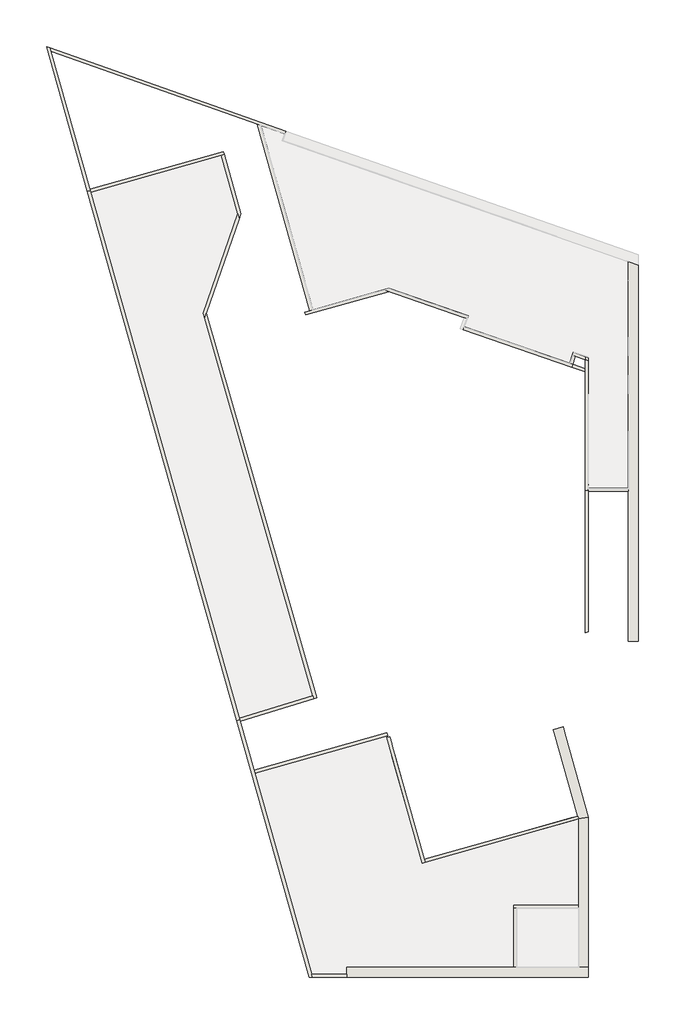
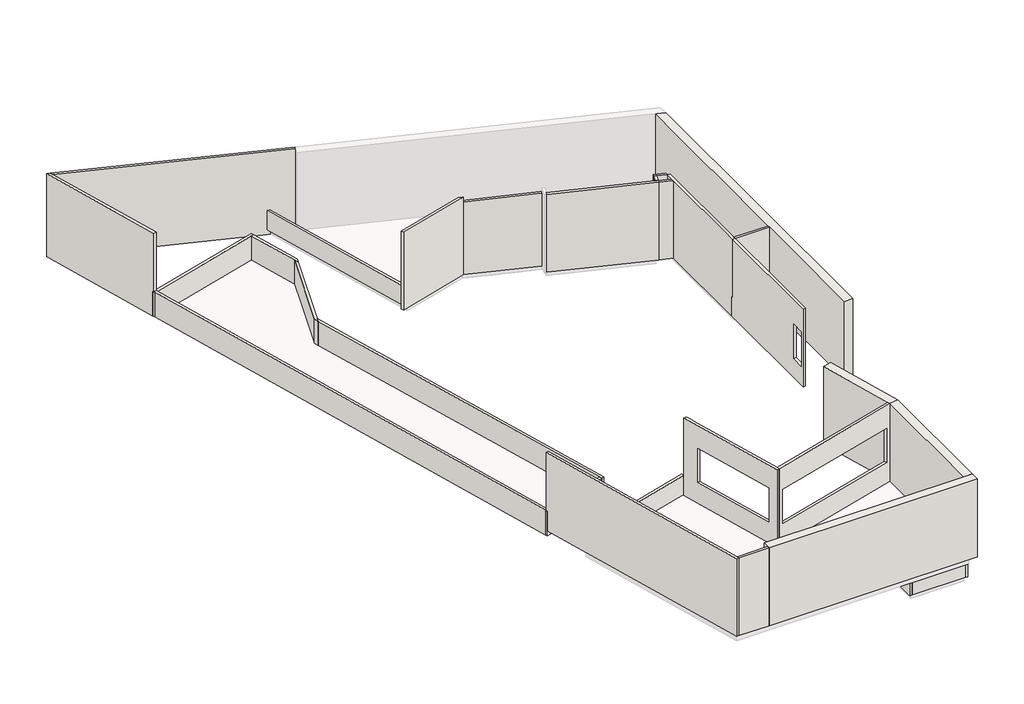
# Not in any storey, part 1 of 2: 31 walls.
"""IFC4 building model written with IfcOpenShell, lengths in millimetres."""

import ifcopenshell
import ifcopenshell.guid

model = None  # the IFC model being written
_history = None  # IfcOwnerHistory: only IFC2X3 demands one
_inside = {}  # id of a spatial element -> (the spatial element, [elements in it])
_under = {}  # id of a project, library or spatial element -> (it, [spatial elements below it])
_declared = {}  # id of a project -> (the project, [libraries it declares])
_typed = {}  # id of a type object -> (the type object, [elements of that type])
_made_of = {}  # id of a material, layer set ... -> (it, [elements and type objects made of it])


def new_model(schema):
    """Start an empty IFC model of exactly this schema.

    Asked for "IFC4X3", IfcOpenShell would pick the latest addendum, in which some entities
    have other attributes; the version numbers below select the first issue.
    IFC2X3 requires an IfcOwnerHistory on every rooted entity: one is made here for all.
    """
    global model, _history
    if schema == "IFC4X3":
        model = ifcopenshell.file(schema_version=(4, 3, 0, 0))
    else:
        model = ifcopenshell.file(schema=schema)
    _inside.clear()
    _under.clear()
    _declared.clear()
    _typed.clear()
    _made_of.clear()
    _history = None
    if model.schema == "IFC2X3":
        org = make("IfcOrganization", Name="unknown")
        user = make(
            "IfcPersonAndOrganization",
            ThePerson=make("IfcPerson", FamilyName="unknown"),
            TheOrganization=org,
        )
        app = make(
            "IfcApplication",
            ApplicationDeveloper=org,
            Version="unknown",
            ApplicationFullName="unknown",
            ApplicationIdentifier="unknown",
        )
        _history = make(
            "IfcOwnerHistory",
            OwningUser=user,
            OwningApplication=app,
            ChangeAction="ADDED",
            CreationDate=0,
        )
    return model


def make(cls, **values):
    """One entity of the class cls with the attributes given. An attribute that is None is left unset."""
    return model.create_entity(
        cls, **{name: value for name, value in values.items() if value is not None}
    )


def rooted(cls, **values):
    """An entity with a GlobalId (a new one), such as an element, a storey or a relation."""
    return make(cls, GlobalId=ifcopenshell.guid.new(), OwnerHistory=_history, **values)


def si_unit(unit_type, name, prefix=None):
    """IfcSIUnit, for example si_unit("LENGTHUNIT", "METRE", prefix="MILLI")."""
    return make("IfcSIUnit", UnitType=unit_type, Prefix=prefix, Name=name)


def assignment(units):
    """IfcUnitAssignment: the units of a project."""
    return None if units is None else make("IfcUnitAssignment", Units=units)


def point(xyz):
    """IfcCartesianPoint."""
    return None if xyz is None else make("IfcCartesianPoint", Coordinates=xyz)


def direction(xyz):
    """IfcDirection."""
    return None if xyz is None else make("IfcDirection", DirectionRatios=xyz)


def frame(location, z_axis=None, x_axis=None):
    """IfcAxis2Placement3D, a coordinate frame: its origin and axes. An axis left out is left unset."""
    return make(
        "IfcAxis2Placement3D",
        Location=point(location),
        Axis=direction(z_axis),
        RefDirection=direction(x_axis),
    )


def origin():
    """The frame at (0, 0, 0) with its axes left unset."""
    return frame((0.0, 0.0, 0.0))


def place(relative_to, where):
    """IfcLocalPlacement: puts the frame where relative to a parent placement (None: the world)."""
    return make(
        "IfcLocalPlacement", PlacementRelTo=relative_to, RelativePlacement=where
    )


def context(
    kind, dimensions, precision=None, world=None, true_north=None, identifier=None
):
    """IfcGeometricRepresentationContext, for example the 3D "Model" context."""
    return make(
        "IfcGeometricRepresentationContext",
        ContextIdentifier=identifier,
        ContextType=kind,
        CoordinateSpaceDimension=dimensions,
        Precision=precision,
        WorldCoordinateSystem=world,
        TrueNorth=true_north,
    )


def project(units=None, contexts=None):
    """IfcProject with its units and contexts."""
    return rooted(
        "IfcProject",
        Name="project",
        RepresentationContexts=contexts,
        UnitsInContext=assignment(units),
    )


def spatial(cls, under=None, at=None, **own):
    """A site, building, storey or space (cls), placed at a placement, below another one or the project."""
    s = rooted(cls, ObjectPlacement=at, **own)
    if under is not None:
        _under.setdefault(under.id(), (under, []))[1].append(s)
    return s


def polyline(points):
    """IfcPolyline through the points."""
    return make("IfcPolyline", Points=[point(p) for p in points])


def outline(outer, holes=None, kind="AREA"):
    """IfcArbitraryClosedProfileDef: a profile drawn as a closed curve; with holes, ...WithVoids."""
    if holes is None:
        return make("IfcArbitraryClosedProfileDef", ProfileType=kind, OuterCurve=outer)
    return make(
        "IfcArbitraryProfileDefWithVoids",
        ProfileType=kind,
        OuterCurve=outer,
        InnerCurves=holes,
    )


def extrude(swept, where, along, depth):
    """IfcExtrudedAreaSolid: the profile swept, set in the frame where, extruded along a direction by depth."""
    return make(
        "IfcExtrudedAreaSolid",
        SweptArea=swept,
        Position=where,
        ExtrudedDirection=direction(along),
        Depth=depth,
    )


def faces_of(points, faces, orient=None, outer=None):
    """IfcFace entities. A face is a list of loops; a loop is a list of indices into points, from 0.

    orient and outer hold one flag for each loop. By default every Orientation is true, the
    first loop of a face is its IfcFaceOuterBound and the others are IfcFaceBound.
    """
    made = []
    for i, loops in enumerate(faces):
        bounds = []
        for j, loop in enumerate(loops):
            is_outer = j == 0 if outer is None else outer[i][j]
            bounds.append(
                make(
                    "IfcFaceOuterBound" if is_outer else "IfcFaceBound",
                    Bound=make("IfcPolyLoop", Polygon=[points[k] for k in loop]),
                    Orientation=True if orient is None else orient[i][j],
                )
            )
        made.append(make("IfcFace", Bounds=bounds))
    return made


def faceted_brep(points, faces, orient=None, outer=None, voids=None):
    """IfcFacetedBrep: a solid bounded by flat faces; with voids (closed shells), ...WithVoids."""
    shared = [point(p) for p in points]
    hull = make("IfcClosedShell", CfsFaces=faces_of(shared, faces, orient, outer))
    if voids is None:
        return make("IfcFacetedBrep", Outer=hull)
    return make(
        "IfcFacetedBrepWithVoids",
        Outer=hull,
        Voids=[
            make(cls, CfsFaces=faces_of(shared, fs, o, b)) for cls, fs, o, b in voids
        ],
    )


def shape(context_of_items, identifier, shape_type, items):
    """IfcShapeRepresentation: the items that make up one representation, for example the "Body"."""
    return make(
        "IfcShapeRepresentation",
        ContextOfItems=context_of_items,
        RepresentationIdentifier=identifier,
        RepresentationType=shape_type,
        Items=items,
    )


def made_of(thing, what):
    """Note that an element or type object is made of a material, layer set ...; save() writes the relation."""
    if what is not None:
        _made_of.setdefault(what.id(), (what, []))[1].append(thing)
    return thing


def element(
    cls,
    number,
    at=None,
    inside=None,
    cuts=None,
    type_object=None,
    material=None,
    context=None,
    identifier="Body",
    shape_type=None,
    held_by="IfcProductDefinitionShape",
    body=None,
    shapes=None,
    **own,
):
    """One element of the class cls, such as IfcWall. Its Tag is "e" and its number.

    at: its placement. inside: the storey or other place that contains it. cuts: it is an
    opening in that element (IfcRelVoidsElement). A single representation is given by context,
    identifier, shape_type and body (its items); several are given by shapes. held_by: the class
    of the entity that holds the representations. save() writes the other relations.
    """
    e = rooted(cls, Tag="e%d" % number, ObjectPlacement=at, **own)
    if body is not None:
        shapes = [shape(context, identifier, shape_type, body)]
    if shapes is not None:
        e.Representation = make(held_by, Representations=shapes)
    if inside is not None:
        _inside.setdefault(inside.id(), (inside, []))[1].append(e)
    if cuts is not None:
        rooted(
            "IfcRelVoidsElement", RelatingBuildingElement=cuts, RelatedOpeningElement=e
        )
    if type_object is not None:
        _typed.setdefault(type_object.id(), (type_object, []))[1].append(e)
    return made_of(e, material)


def aggregate(whole, parts):
    """IfcRelAggregates: a whole, such as a stair, and the parts it consists of."""
    return rooted("IfcRelAggregates", RelatingObject=whole, RelatedObjects=parts)


def save(model, path):
    """Write the relations noted so far, then the file.

    IfcRelAggregates (storeys below a building ...), IfcRelContainedInSpatialStructure (elements
    in a storey), IfcRelDefinesByType, IfcRelAssociatesMaterial and IfcRelDeclares: one each for
    every whole, place, type object, material and project.
    """
    for whole, parts in _under.values():
        aggregate(whole, parts)
    for where, things in _inside.values():
        rooted(
            "IfcRelContainedInSpatialStructure",
            RelatedElements=things,
            RelatingStructure=where,
        )
    for kind, things in _typed.values():
        rooted("IfcRelDefinesByType", RelatedObjects=things, RelatingType=kind)
    for what, things in _made_of.values():
        rooted("IfcRelAssociatesMaterial", RelatedObjects=things, RelatingMaterial=what)
    for by, libraries in _declared.values():
        rooted("IfcRelDeclares", RelatingContext=by, RelatedDefinitions=libraries)
    model.write(path)


model = new_model("IFC4")

# Units and contexts
model_context = context("Model", 3, world=origin())
ifc_project = project(units=[si_unit("LENGTHUNIT", "METRE", prefix="MILLI")], contexts=[model_context])

# Site, building
site = spatial("IfcSite", under=ifc_project)
building = spatial("IfcBuilding", under=site)

# Walls
placement = place(None, origin())
element("IfcWall", 1, ObjectType="Parede Piscina Básica .15", at=placement, inside=building, context=model_context, shape_type="Brep", body=[
    faceted_brep([(-100106.9166518, 39277.9576877, 31150.0), (-99962.5568362, 39318.7037752, 31150.0), (-93418.2451963, 41165.8597406, 31150.0), (-93273.8853808, 41206.6058281, 31150.0), (-93273.8853808, 41206.6058281, 32650.0), (-93418.2451963, 41165.8597406, 32650.0), (-99962.5568362, 39318.7037752, 32650.0), (-100106.9166518, 39277.9576877, 32650.0), (-100147.6627393, 39422.3175033, 31150.0), (-100147.6627393, 39422.3175033, 32650.0), (-100003.3029237, 39463.0635908, 32650.0), (-93314.6314682, 41350.9656436, 32650.0), (-93314.6314682, 41350.9656436, 31150.0), (-100003.3029237, 39463.0635908, 31150.0), (-100127.2896955, 39350.1375955, 32650.0)], [[[0, 1, 2, 3, 4, 5, 6, 7]], [[8, 9, 10, 11, 12, 13]], [[3, 2, 1, 0, 8, 13, 12]], [[7, 6, 5, 4, 11, 10, 9, 14]], [[4, 3, 12, 11]], [[0, 7, 14, 9, 8]]]),
])
element("IfcWall", 2, ObjectType="Parede Piscina Básica .15", at=placement, inside=building, context=model_context, shape_type="Brep", body=[
    faceted_brep([(-93418.2451963, 41165.8597406, 31150.0), (-92591.6151058, 38237.1818027, 31150.0), (-92520.3427671, 37984.6701556, 31150.0), (-92520.3427671, 37984.6701556, 32650.0), (-92591.6151058, 38237.1818027, 32650.0), (-93418.2451963, 41165.8597406, 32650.0), (-93273.8853808, 41206.6058281, 31150.0), (-93273.8853808, 41206.6058281, 32650.0), (-92434.4594649, 38232.593403, 32650.0), (-92434.4594649, 38232.593403, 31150.0)], [[[0, 1, 2, 3, 4, 5]], [[6, 7, 8, 9]], [[2, 1, 0, 6, 9]], [[5, 4, 3, 8, 7]], [[0, 5, 7, 6]], [[3, 2, 9, 8]]]),
])
element("IfcWall", 3, ObjectType="Parede Piscina Básica .15", at=placement, inside=building, context=model_context, shape_type="Brep", body=[
    faceted_brep([(-92591.6151058, 38237.1818027, 31150.0), (-94323.2305019, 33238.4486268, 31150.0), (-94323.2305019, 33238.4486268, 32650.0), (-92591.6151058, 38237.1818027, 32650.0), (-92520.3427671, 37984.6701556, 31150.0), (-92520.3427671, 37984.6701556, 32650.0), (-94165.9627146, 33234.1839654, 32650.0), (-94251.3376166, 32987.7283401, 32650.0), (-94251.3376166, 32987.7283401, 31150.0), (-94165.9627146, 33234.1839654, 31150.0)], [[[0, 1, 2, 3]], [[4, 5, 6, 7, 8, 9]], [[1, 0, 4, 9, 8]], [[3, 2, 7, 6, 5]], [[0, 3, 5, 4]], [[2, 1, 8, 7]]]),
])
element("IfcWall", 4, ObjectType="Parede Piscina Básica .15", at=placement, inside=building, context=model_context, shape_type="Brep", body=[
    faceted_brep([(-94251.3376166, 32987.7283401, 31150.0), (-88820.0735017, 14046.6594176, 31150.0), (-88778.7230717, 13902.4533306, 31150.0), (-88778.7230717, 13902.4533306, 32650.0), (-88820.0735017, 14046.6594176, 32650.0), (-94251.3376166, 32987.7283401, 32650.0), (-94165.9627146, 33234.1839654, 31150.0), (-94165.9627146, 33234.1839654, 32650.0), (-88635.1655975, 13946.0022135, 32650.0), (-88635.1655975, 13946.0022135, 31150.0)], [[[0, 1, 2, 3, 4, 5]], [[6, 7, 8, 9]], [[2, 1, 0, 6, 9]], [[5, 4, 3, 8, 7]], [[0, 5, 7, 6]], [[3, 2, 9, 8]]]),
])
element("IfcWall", 5, ObjectType="Parede Piscina Básica .15", at=placement, inside=building, context=model_context, shape_type="Brep", body=[
    faceted_brep([(-88820.0735017, 14046.6594176, 31150.0), (-92513.2117725, 12926.3273198, 31150.0), (-92656.7796021, 12882.7752955, 31150.0), (-92656.7796021, 12882.7752955, 32650.0), (-92513.2117725, 12926.3273198, 32650.0), (-88820.0735017, 14046.6594176, 32650.0), (-88778.7230717, 13902.4533306, 31150.0), (-88778.7230717, 13902.4533306, 32650.0), (-92472.4579888, 12781.9402372, 32650.0), (-92616.0258184, 12738.3882129, 32650.0), (-92616.0258184, 12738.3882129, 31470.0), (-92616.0258184, 12738.3882129, 31150.0), (-92636.7987032, 12811.9847226, 32650.0)], [[[0, 1, 2, 3, 4, 5]], [[6, 7, 8, 9, 10, 11]], [[2, 1, 0, 6, 11]], [[5, 4, 3, 12, 9, 8, 7]], [[0, 5, 7, 6]], [[2, 11, 10, 9, 12, 3]]]),
])
element("IfcWall", 6, ObjectType="Parede Piscina Básica .15", at=placement, inside=building, context=model_context, shape_type="Brep", body=[
    faceted_brep([(-100106.9166518, 39277.9576877, 31150.0), (-92656.7796021, 12882.7752955, 31150.0), (-92656.7796021, 12882.7752955, 32650.0), (-92636.7987032, 12811.9847226, 32650.0), (-92636.7987032, 12811.9847226, 32680.0), (-100127.2896955, 39350.1375955, 32680.0), (-100127.2896955, 39350.1375955, 32650.0), (-100106.9166518, 39277.9576877, 32650.0), (-99962.5568362, 39318.7037752, 31150.0), (-99962.5568362, 39318.7037752, 32650.0), (-99982.9298799, 39390.883683, 32650.0), (-99982.9298799, 39390.883683, 32680.0), (-92492.4388876, 12852.7308101, 32680.0), (-92492.4388876, 12852.7308101, 32650.0), (-92513.2117725, 12926.3273198, 32650.0), (-92513.2117725, 12926.3273198, 31150.0)], [[[0, 1, 2, 3, 4, 5, 6, 7]], [[8, 9, 10, 11, 12, 13, 14, 15]], [[1, 0, 8, 15]], [[5, 4, 12, 11]], [[6, 5, 11, 10]], [[6, 10, 9, 7]], [[0, 7, 9, 8]], [[4, 3, 13, 12]], [[13, 3, 2, 14]], [[1, 15, 14, 2]]]),
])
element("IfcWall", 7, ObjectType="Básica .15 - Externa", at=placement, inside=building, context=model_context, shape_type="Brep", body=[
    faceted_brep([(-100003.3029237, 39463.0635908, 31150.0), (-101956.3177579, 46382.4239222, 31150.0), (-102006.1967716, 46559.1408946, 31150.0), (-102006.1967716, 46559.1408946, 36250.0), (-101956.3177579, 46382.4239222, 36250.0), (-99982.9298799, 39390.883683, 36250.0), (-99982.9298799, 39390.883683, 32650.0), (-100003.3029237, 39463.0635908, 32650.0), (-100147.6627393, 39422.3175033, 31150.0), (-100147.6627393, 39422.3175033, 32650.0), (-100127.2896955, 39350.1375955, 32650.0), (-100127.2896955, 39350.1375955, 36250.0), (-102179.3258827, 46620.3218987, 36250.0), (-102179.3258827, 46620.3218987, 31150.0)], [[[0, 1, 2, 3, 4, 5, 6, 7]], [[8, 9, 10, 11, 12, 13]], [[2, 1, 0, 8, 13]], [[5, 4, 3, 12, 11]], [[3, 2, 13, 12]], [[6, 5, 11, 10]], [[6, 10, 9, 7]], [[0, 7, 9, 8]]]),
])
element("IfcWall", 8, ObjectType="Básica .15 - Externa", at=placement, inside=building, context=model_context, shape_type="SweptSolid", body=[
    extrude(outline(polyline([(-90235.8625015, 42240.6061947), (-101956.3177579, 46382.4239222), (-102006.1967716, 46559.1408946), (-90185.8838359, 42382.035092), (-90235.8625015, 42240.6061947)])), frame((0.0, 0.0, 31150.0), z_axis=(0.0, 0.0, 1.0), x_axis=(1.0, 0.0, 0.0)), (0.0, 0.0, 1.0), 5100.0),
])
element("IfcWall", 9, ObjectType="Contenção 50cm - Externa", at=placement, inside=building, context=model_context, shape_type="Brep", body=[
    faceted_brep([(-72998.3760975, 35830.921118, 31470.0), (-72998.3760975, 24466.5473208, 31470.0), (-72998.3760975, 24316.5473208, 31470.0), (-72998.3760975, 16796.1835253, 31470.0), (-72998.3760975, 16796.1835253, 32650.0), (-72998.3760975, 16796.1835253, 36250.0), (-72998.3760975, 17296.1835253, 36250.0), (-72998.3760975, 19996.8166516, 36250.0), (-72998.3760975, 20146.8166516, 36250.0), (-72998.3760975, 24316.5473208, 36250.0), (-72998.3760975, 24466.5473208, 36250.0), (-72998.3760975, 35830.921118, 36250.0), (-72498.3760975, 35655.9554702, 31470.0), (-72498.3760975, 35655.9554702, 36250.0), (-72498.3760975, 16796.1835253, 36250.0), (-72498.3760975, 16796.1835253, 31470.0)], [[[0, 1, 2, 3, 4, 5, 6, 7, 8, 9, 10, 11]], [[12, 13, 14, 15]], [[3, 2, 1, 0, 12, 15]], [[11, 10, 9, 8, 7, 6, 5, 14, 13]], [[0, 11, 13, 12]], [[5, 4, 3, 15, 14]]]),
])
element("IfcWall", 10, ObjectType="Contenção 50cm - Externa", at=placement, inside=building, context=model_context, shape_type="Brep", body=[
    faceted_brep([(-87110.2944773, -73.1666882, 31470.0), (-74995.5398477, -62.9911231, 31470.0), (-74995.5398477, -62.9911231, 36250.0), (-87110.2944773, -73.1666882, 36250.0), (-87110.7144429, 426.8331354, 31470.0), (-87110.7144429, 426.8331354, 36250.0), (-75495.5398477, 436.5890875, 36250.0), (-74995.5398477, 437.0090533, 36250.0), (-74995.5398477, 437.0090533, 31470.0), (-75495.5398477, 436.5890875, 31470.0), (-87110.420467, 76.8332589, 31470.0), (-87110.420467, 76.8332589, 36250.0)], [[[0, 1, 2, 3]], [[4, 5, 6, 7, 8, 9]], [[1, 0, 10, 4, 9, 8]], [[3, 2, 7, 6, 5, 11]], [[0, 3, 11, 5, 4, 10]], [[2, 1, 8, 7]]]),
])
element("IfcWall", 11, ObjectType="Contenção 50cm - Externa", at=placement, inside=building, context=model_context, shape_type="Brep", body=[
    faceted_brep([(-74995.5398477, 437.0090533, 31470.0), (-74995.5398477, 7966.3871724, 31470.0), (-74995.5398477, 7966.3871724, 36250.0), (-74995.5398477, 437.0090533, 36250.0), (-75495.5398477, 436.5890875, 31470.0), (-75495.5398477, 436.5890875, 36250.0), (-75495.5398477, 7875.556124, 36250.0), (-75495.5398477, 7897.1420852, 36250.0), (-75495.5398477, 7897.1420852, 31470.0), (-75495.5398477, 7875.556124, 31470.0)], [[[0, 1, 2, 3]], [[4, 5, 6, 7, 8, 9]], [[1, 0, 4, 9, 8]], [[3, 2, 7, 6, 5]], [[0, 3, 5, 4]], [[2, 1, 8, 7]]]),
])
element("IfcWall", 12, ObjectType="Básica .15 - Externa", at=placement, inside=building, context=model_context, shape_type="Brep", body=[
    faceted_brep([(-88843.6459734, -74.6225849, 31470.0), (-88885.9740037, 75.3419154, 31470.0), (-91736.385788, 10174.1009634, 31470.0), (-91777.1318755, 10318.460779, 31470.0), (-92472.4579888, 12781.9402372, 31470.0), (-92472.4579888, 12781.9402372, 32650.0), (-92492.4388876, 12852.7308101, 32650.0), (-92492.4388876, 12852.7308101, 36250.0), (-88885.9740037, 75.3419154, 36250.0), (-88843.6459734, -74.6225849, 36250.0), (-88999.4695799, -74.7534661, 31470.0), (-88999.4695799, -74.7534661, 36250.0), (-92636.7987032, 12811.9847226, 36250.0), (-92636.7987032, 12811.9847226, 32650.0), (-92616.0258184, 12738.3882129, 32650.0), (-92616.0258184, 12738.3882129, 31470.0)], [[[0, 1, 2, 3, 4, 5, 6, 7, 8, 9]], [[10, 11, 12, 13, 14, 15]], [[4, 3, 2, 1, 0, 10, 15]], [[9, 8, 7, 12, 11]], [[0, 9, 11, 10]], [[7, 6, 13, 12]], [[13, 6, 5, 14]], [[5, 4, 15, 14]]]),
])
element("IfcWall", 13, ObjectType="Básica .15 - Externa", at=placement, inside=building, context=model_context, shape_type="SweptSolid", body=[
    extrude(outline(polyline([(-87110.2944773, -73.1666882), (-88843.6459734, -74.6225849), (-88885.9740037, 75.3419154), (-87110.420467, 76.8332589), (-87110.2944773, -73.1666882)])), frame((0.0, 0.0, 31470.0), z_axis=(0.0, 0.0, 1.0), x_axis=(1.0, 0.0, 0.0)), (0.0, 0.0, 1.0), 4780.0),
])
element("IfcWall", 14, ObjectType="Básica .15 - Externa", at=placement, inside=building, context=model_context, shape_type="Brep", body=[
    faceted_brep([(-85273.9760164, 34416.0529555, 31470.0), (-85026.0998537, 34330.1859639, 31470.0), (-81227.7294987, 33014.3892699, 31470.0), (-81085.9928492, 32965.290157, 31470.0), (-81085.9928492, 32965.290157, 35950.0), (-81227.7294987, 33014.3892699, 35950.0), (-85273.9760164, 34416.0529555, 35950.0), (-85021.5217597, 34487.3451748, 31470.0), (-85021.5217597, 34487.3451748, 35950.0), (-81036.9189042, 33107.0355225, 35950.0), (-81036.9189042, 33107.0355225, 31470.0), (-81085.4774271, 32966.7789039, 35950.0)], [[[0, 1, 2, 3, 4, 5, 6]], [[7, 8, 9, 10]], [[3, 2, 1, 0, 7, 10]], [[6, 5, 4, 11, 9, 8]], [[0, 6, 8, 7]], [[4, 3, 10, 9, 11]]]),
])
element("IfcWall", 15, ObjectType="Básica .15 - Externa", at=placement, inside=building, context=model_context, shape_type="Brep", body=[
    faceted_brep([(-85273.9760164, 34416.0529555, 31470.0), (-88831.4340802, 33411.4389567, 31470.0), (-88975.7885012, 33370.6737616, 31470.0), (-89227.5405195, 33299.579852, 31470.0), (-89227.5405195, 33299.579852, 36250.0), (-85273.9760164, 34416.0529555, 36250.0), (-85273.9760164, 34416.0529555, 35950.0), (-85026.0998537, 34330.1859639, 31470.0), (-85026.0998537, 34330.1859639, 36250.0), (-89186.7753243, 33155.225431, 36250.0), (-89186.7753243, 33155.225431, 31470.0)], [[[0, 1, 2, 3, 4, 5, 6]], [[7, 8, 9, 10]], [[3, 2, 1, 0, 7, 10]], [[4, 3, 10, 9]], [[5, 4, 9, 8]], [[0, 6, 5, 8, 7]]]),
])
element("IfcWall", 16, ObjectType="Básica .15 - Externa", at=placement, inside=building, context=model_context, shape_type="Brep", body=[
    faceted_brep([(-83188.7967227, 5703.0066759, 31470.0), (-75495.5398477, 7875.556124, 31470.0), (-75495.5398477, 7875.556124, 36250.0), (-83188.7967227, 5703.0066759, 36250.0), (-75730.4849704, 7809.2084243, 32750.0), (-82948.206021, 5770.9486678, 32750.0), (-82948.206021, 5770.9486678, 34850.0), (-75730.4849704, 7809.2084243, 34850.0), (-83229.5619178, 5847.3610969, 31470.0), (-83229.5619178, 5847.3610969, 36250.0), (-75530.6594638, 8021.5048372, 36250.0), (-75530.6594638, 8021.5048372, 31470.0), (-75771.2501655, 7953.5628453, 32750.0), (-75771.2501655, 7953.5628453, 34850.0), (-82988.9712162, 5915.3030888, 34850.0), (-82988.9712162, 5915.3030888, 32750.0), (-75495.5398477, 7897.1420852, 31470.0), (-75495.5398477, 7897.1420852, 36250.0)], [[[0, 1, 2, 3], [4, 5, 6, 7]], [[8, 9, 10, 11], [12, 13, 14, 15]], [[1, 0, 8, 11, 16]], [[3, 2, 17, 10, 9]], [[0, 3, 9, 8]], [[2, 1, 16, 17]], [[16, 11, 10, 17]], [[13, 12, 4, 7]], [[14, 13, 7, 6]], [[15, 14, 6, 5]], [[12, 15, 5, 4]]]),
])
element("IfcWall", 17, ObjectType="Básica .15 - Externa", at=placement, inside=building, context=model_context, shape_type="Brep", body=[
    faceted_brep([(-75146.0514969, 31068.0424458, 31470.0), (-75146.0514969, 30909.2973334, 31470.0), (-75146.0514969, 30458.6890219, 31470.0), (-75146.0514969, 30299.9439096, 31470.0), (-75146.0514969, 24425.9126805, 31470.0), (-75146.0514969, 24425.9126805, 32650.0), (-75146.0514969, 24326.7997504, 32650.0), (-75146.0514969, 24326.7997504, 36250.0), (-75146.0514969, 24482.6661232, 36250.0), (-75146.0514969, 30299.9439096, 36250.0), (-75146.0514969, 30458.6890219, 36250.0), (-75146.0514969, 30909.2973334, 36250.0), (-75146.0514969, 30909.2973334, 35950.0), (-75146.0514969, 31068.0424458, 35950.0), (-74996.0514969, 31016.0808187, 31470.0), (-74996.0514969, 31016.0808187, 35950.0), (-74996.0514969, 30857.3357063, 35950.0), (-74996.0514969, 30857.3357063, 36250.0), (-74996.0514969, 24466.5473208, 36250.0), (-74996.0514969, 24369.1592377, 36250.0), (-74996.0514969, 24369.1592377, 32650.0), (-74996.0514969, 24425.9126805, 32650.0), (-74996.0514969, 24425.9126805, 31470.0), (-74996.0514969, 24466.5473208, 31470.0)], [[[0, 1, 2, 3, 4, 5, 6, 7, 8, 9, 10, 11, 12, 13]], [[14, 15, 16, 17, 18, 19, 20, 21, 22, 23]], [[4, 3, 2, 1, 0, 14, 23, 22]], [[11, 10, 9, 8, 7, 19, 18, 17]], [[5, 4, 22, 21]], [[20, 6, 5, 21]], [[7, 6, 20, 19]], [[12, 16, 15, 13]], [[0, 13, 15, 14]], [[12, 11, 17, 16]]]),
])
element("IfcWall", 18, ObjectType="Básica .15 - Externa", at=placement, inside=building, context=model_context, shape_type="Brep", body=[
    faceted_brep([(-75146.0514969, 31068.0424458, 36250.0), (-75146.0514969, 31068.0424458, 35950.0), (-75146.0514969, 31068.0424458, 31470.0), (-75748.3120607, 31276.6720381, 31470.0), (-75748.3120607, 31276.6720381, 36250.0), (-75146.0514969, 30909.2973334, 31470.0), (-75146.0514969, 30909.2973334, 36250.0), (-75655.6745255, 31085.8362787, 36250.0), (-75797.4111728, 31134.9353908, 36250.0), (-75797.4111728, 31134.9353908, 31470.0), (-75655.6745255, 31085.8362787, 31470.0)], [[[0, 1, 2, 3, 4]], [[5, 6, 7, 8, 9, 10]], [[3, 2, 5, 10, 9]], [[0, 4, 8, 7, 6]], [[4, 3, 9, 8]], [[0, 6, 5, 2, 1]]]),
])
element("IfcWall", 19, ObjectType="Básica .15 -  Interna", at=placement, inside=building, context=model_context, shape_type="SweptSolid", body=[
    extrude(outline(polyline([(-75795.0455442, 30683.5075999), (-75146.0514969, 30458.6890219), (-75146.0514969, 30299.9439096), (-75844.1446563, 30541.7709526), (-75795.0455442, 30683.5075999)])), frame((0.0, 0.0, 31470.0), z_axis=(0.0, 0.0, 1.0), x_axis=(1.0, 0.0, 0.0)), (0.0, 0.0, 1.0), 4780.0),
])
element("IfcWall", 20, ObjectType="Básica .15 - Externa", at=placement, inside=building, context=model_context, shape_type="SweptSolid", body=[
    extrude(outline(polyline([(-75936.7821915, 30732.606712), (-75797.4111728, 31134.9353908), (-75655.6745255, 31085.8362787), (-75795.0455442, 30683.5075999), (-75936.7821915, 30732.606712)])), frame((0.0, 0.0, 31470.0), z_axis=(0.0, 0.0, 1.0), x_axis=(1.0, 0.0, 0.0)), (0.0, 0.0, 1.0), 4780.0),
])
element("IfcWall", 21, ObjectType="Básica .15 - Externa", at=placement, inside=building, context=model_context, shape_type="Brep", body=[
    faceted_brep([(-74996.0514969, 24316.5473208, 36250.0), (-74996.0514969, 24316.5473208, 31470.0), (-72998.3760975, 24316.5473208, 31470.0), (-72998.3760975, 24316.5473208, 36250.0), (-74996.0514969, 24466.5473208, 31470.0), (-74996.0514969, 24466.5473208, 36250.0), (-72998.3760975, 24466.5473208, 36250.0), (-72998.3760975, 24466.5473208, 31470.0), (-74996.0514969, 24425.9126805, 31470.0), (-74996.0514969, 24369.1592377, 36250.0)], [[[0, 1, 2, 3]], [[4, 5, 6, 7]], [[2, 1, 8, 4, 7]], [[0, 3, 6, 5, 9]], [[0, 9, 5, 4, 8, 1]], [[3, 2, 7, 6]]]),
])
element("IfcWall", 22, ObjectType="Contenção 50cm - Externa", at=placement, inside=building, context=model_context, shape_type="Brep", body=[
    faceted_brep([(-76753.6153178, 12352.1374676, 31470.0), (-75530.6594638, 8021.5048372, 31470.0), (-75495.5398477, 7897.1420852, 31470.0), (-75495.5398477, 7897.1420852, 36250.0), (-75530.6594638, 8021.5048372, 36250.0), (-76712.8501227, 12207.7830466, 36250.0), (-76753.6153178, 12352.1374676, 36250.0), (-76753.6153178, 12352.1374676, 32650.0), (-76272.4339144, 12488.0214514, 31470.0), (-76272.4339144, 12488.0214514, 32650.0), (-76272.4339144, 12488.0214514, 36250.0), (-76136.5499306, 12006.840048, 36250.0), (-74995.5398477, 7966.3871724, 36250.0), (-74995.5398477, 7966.3871724, 31470.0)], [[[0, 1, 2, 3, 4, 5, 6, 7]], [[8, 9, 10, 11, 12, 13]], [[2, 1, 0, 8, 13]], [[6, 5, 4, 3, 12, 11, 10]], [[0, 7, 6, 10, 9, 8]], [[3, 2, 13, 12]]]),
])
element("IfcWall", 23, ObjectType="Básica .15 -  Interna", at=placement, inside=building, context=model_context, shape_type="Brep", body=[
    faceted_brep([(-75146.0514969, 24425.9126805, 31470.0), (-75146.0514969, 17221.5594511, 31470.0), (-75146.0514969, 17221.5594511, 36250.0), (-75146.0514969, 24326.7997504, 36250.0), (-75146.0514969, 24326.7997504, 32650.0), (-75146.0514969, 24425.9126805, 32650.0), (-75146.0514969, 18196.8166516, 32650.0), (-75146.0514969, 18196.8166516, 34750.0), (-75146.0514969, 17396.8166516, 34750.0), (-75146.0514969, 17396.8166516, 32650.0), (-74996.0514969, 24425.9126805, 31470.0), (-74996.0514969, 24425.9126805, 32650.0), (-74996.0514969, 24369.1592377, 32650.0), (-74996.0514969, 24369.1592377, 36250.0), (-74996.0514969, 24316.5473208, 36250.0), (-74996.0514969, 20146.8166516, 36250.0), (-74996.0514969, 19996.8166516, 36250.0), (-74996.0514969, 17263.9189385, 36250.0), (-74996.0514969, 17263.9189385, 31470.0), (-74996.0514969, 24316.5473208, 31470.0), (-74996.0514969, 18196.8166516, 32650.0), (-74996.0514969, 17396.8166516, 32650.0), (-74996.0514969, 17396.8166516, 34750.0), (-74996.0514969, 18196.8166516, 34750.0)], [[[0, 1, 2, 3, 4, 5], [6, 7, 8, 9]], [[10, 11, 12, 13, 14, 15, 16, 17, 18, 19], [20, 21, 22, 23]], [[1, 0, 10, 19, 18]], [[3, 2, 17, 16, 15, 14, 13]], [[2, 1, 18, 17]], [[20, 23, 7, 6]], [[23, 22, 8, 7]], [[22, 21, 9, 8]], [[21, 20, 6, 9]], [[0, 5, 11, 10]], [[4, 12, 11, 5]], [[4, 3, 13, 12]]]),
])
element("IfcWall", 24, ObjectType="Básica .15 - Externa", at=placement, inside=building, context=model_context, shape_type="Brep", body=[
    faceted_brep([(-75795.0455442, 30683.5075999, 31470.0), (-75936.7821915, 30732.606712, 31470.0), (-81224.7770071, 32564.4254779, 31470.0), (-81224.7770071, 32564.4254779, 36250.0), (-75936.7821915, 30732.606712, 36250.0), (-75795.0455442, 30683.5075999, 36250.0), (-75844.1446563, 30541.7709526, 31470.0), (-75844.1446563, 30541.7709526, 36250.0), (-81273.8509521, 32422.6801124, 36250.0), (-81273.8509521, 32422.6801124, 31470.0)], [[[0, 1, 2, 3, 4, 5]], [[6, 7, 8, 9]], [[2, 1, 0, 6, 9]], [[5, 4, 3, 8, 7]], [[0, 5, 7, 6]], [[2, 9, 8, 3]]]),
])
element("IfcWall", 25, ObjectType="Básica .15 - Externa", at=placement, inside=building, context=model_context, shape_type="Brep", body=[
    faceted_brep([(-85113.2313311, 11965.717865, 31470.0), (-83338.5865031, 5681.4887369, 31470.0), (-83333.1511437, 5662.2414807, 31470.0), (-83333.1511437, 5662.2414807, 36250.0), (-85113.2313311, 11965.717865, 36250.0), (-85113.2313311, 11965.717865, 32650.0), (-83496.2119242, 6239.6591648, 32750.0), (-84855.051762, 11051.4731985, 32750.0), (-84855.051762, 11051.4731985, 34850.0), (-83496.2119242, 6239.6591648, 34850.0), (-84968.8769101, 12006.4830601, 31470.0), (-84968.8769101, 12006.4830601, 32650.0), (-84968.8769101, 12006.4830601, 36250.0), (-84948.4943126, 11934.3058496, 36250.0), (-84873.7581215, 11669.6560777, 36250.0), (-84832.9929264, 11525.3016567, 36250.0), (-83229.5619178, 5847.3610969, 36250.0), (-83188.7967227, 5703.0066759, 36250.0), (-83188.7967227, 5703.0066759, 31470.0), (-83194.2320821, 5722.253932, 31470.0), (-83229.5619178, 5847.3610969, 31470.0), (-83351.8575032, 6280.4243599, 32750.0), (-83351.8575032, 6280.4243599, 34850.0), (-84710.697341, 11092.2383937, 34850.0), (-84710.697341, 11092.2383937, 32750.0)], [[[0, 1, 2, 3, 4, 5], [6, 7, 8, 9]], [[10, 11, 12, 13, 14, 15, 16, 17, 18, 19, 20], [21, 22, 23, 24]], [[4, 3, 17, 16, 15, 14, 13, 12]], [[0, 5, 4, 12, 11, 10]], [[3, 2, 18, 17]], [[1, 0, 10, 20, 19]], [[2, 1, 19, 18]], [[21, 24, 7, 6]], [[24, 23, 8, 7]], [[23, 22, 9, 8]], [[22, 21, 6, 9]]]),
])
element("IfcWall", 26, ObjectType="Básica .15 - Externa", at=placement, inside=building, context=model_context, shape_type="SweptSolid", body=[
    extrude(outline(polyline([(-91777.1318755, 10318.460779), (-85102.1536895, 12202.4978563), (-85061.407602, 12058.1380407), (-91736.385788, 10174.1009634), (-91777.1318755, 10318.460779)])), frame((0.0, 0.0, 31470.0), z_axis=(0.0, 0.0, 1.0), x_axis=(1.0, 0.0, 0.0)), (0.0, 0.0, 1.0), 1180.0),
])
element("IfcWall", 27, ObjectType="Básica .15 - Externa", at=placement, inside=building, context=model_context, shape_type="SweptSolid", body=[
    extrude(outline(polyline([(-91445.473024, 42668.0628246), (-88831.4340802, 33411.4389567), (-88975.7885012, 33370.6737616), (-91618.6183182, 42729.2495476), (-91445.473024, 42668.0628246)])), frame((0.0, 0.0, 31470.0), z_axis=(0.0, 0.0, 1.0), x_axis=(1.0, 0.0, 0.0)), (0.0, 0.0, 1.0), 1180.0),
])
element("IfcWall", 28, ObjectType="Básica .15 - Externa", at=placement, inside=building, context=model_context, shape_type="Brep", body=[
    faceted_brep([(-78731.9967396, 3409.0596697, 30150.0), (-78581.9967396, 3409.0596697, 30150.0), (-75495.5398477, 3409.0596697, 30150.0), (-75345.5398477, 3409.0596697, 30150.0), (-75345.5398477, 3409.0596697, 31470.0), (-75495.5398477, 3409.0596697, 31470.0), (-78581.9967396, 3409.0596697, 31470.0), (-78731.9967396, 3409.0596697, 31470.0), (-78731.9967396, 3559.0596697, 30150.0), (-78731.9967396, 3559.0596697, 31470.0), (-75345.5398477, 3559.0596697, 31470.0), (-75345.5398477, 3559.0596697, 30150.0)], [[[0, 1, 2, 3, 4, 5, 6, 7]], [[8, 9, 10, 11]], [[3, 2, 1, 0, 8, 11]], [[7, 6, 5, 4, 10, 9]], [[0, 7, 9, 8]], [[4, 3, 11, 10]]]),
])
element("IfcWall", 29, ObjectType="Básica .15 - Externa", at=placement, inside=building, context=model_context, shape_type="Brep", body=[
    faceted_brep([(-78731.9967396, 3409.0596697, 30150.0), (-78731.9967396, 286.5890875, 30150.0), (-78731.9967396, 286.5890875, 31470.0), (-78731.9967396, 3409.0596697, 31470.0), (-78581.9967396, 3409.0596697, 30150.0), (-78581.9967396, 3409.0596697, 31470.0), (-78581.9967396, 436.5890875, 31470.0), (-78581.9967396, 286.5890875, 31470.0), (-78581.9967396, 286.5890875, 30150.0), (-78581.9967396, 436.5890875, 30150.0)], [[[0, 1, 2, 3]], [[4, 5, 6, 7, 8, 9]], [[1, 0, 4, 9, 8]], [[3, 2, 7, 6, 5]], [[0, 3, 5, 4]], [[2, 1, 8, 7]]]),
])
element("IfcWall", 30, ObjectType="Básica .15 - Externa", at=placement, inside=building, context=model_context, shape_type="Brep", body=[
    faceted_brep([(-75345.5398477, 286.5890875, 30150.0), (-75345.5398477, 3409.0596697, 30150.0), (-75345.5398477, 3409.0596697, 31470.0), (-75345.5398477, 286.5890875, 31470.0), (-75495.5398477, 286.5890875, 30150.0), (-75495.5398477, 286.5890875, 31470.0), (-75495.5398477, 436.5890875, 31470.0), (-75495.5398477, 3409.0596697, 31470.0), (-75495.5398477, 3409.0596697, 30150.0), (-75495.5398477, 436.5890875, 30150.0)], [[[0, 1, 2, 3]], [[4, 5, 6, 7, 8, 9]], [[1, 0, 4, 9, 8]], [[3, 2, 7, 6, 5]], [[2, 1, 8, 7]], [[0, 3, 5, 4]]]),
])
element("IfcWall", 31, ObjectType="Básica .15 - Externa", at=placement, inside=building, context=model_context, shape_type="SweptSolid", body=[
    extrude(outline(polyline([(-75495.5398477, 286.5890875), (-78581.9967396, 286.5890875), (-78581.9967396, 436.5890875), (-75495.5398477, 436.5890875), (-75495.5398477, 286.5890875)])), frame((0.0, 0.0, 30150.0), z_axis=(0.0, 0.0, 1.0), x_axis=(1.0, 0.0, 0.0)), (0.0, 0.0, 1.0), 1320.0),
])

save(model, "model.ifc")
